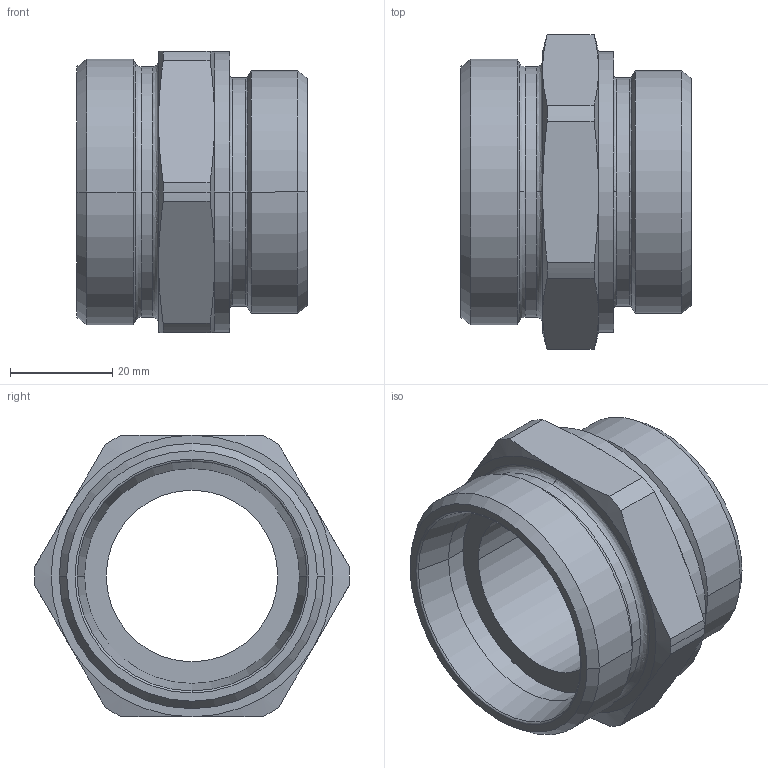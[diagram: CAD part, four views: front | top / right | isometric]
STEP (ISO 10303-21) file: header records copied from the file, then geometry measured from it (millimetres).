
FILE_DESCRIPTION((''),'2;1');
FILE_NAME('100913.stp','2007-10-30T15:28:54',(''),(''),'AutoCAD STEP 2000i','AutoCAD 2000i',', , ');
FILE_SCHEMA(('CONFIG_CONTROL_DESIGN'));
Length unit declared in the file: millimetre
Products named in the file (2): 100913.0; CHIAVE SMUSSATA#0
Assembly tree (1 placements, depth 2):
  100913.0
    CHIAVE SMUSSATA#0
Bounding box: 45 x 61.5 x 55 mm (x, y, z)
Volume: 47349.5 mm3; surface area: 15660.2 mm2
Topology: 1 solids, 1 shells, 68 faces, 165 edges, 103 vertices
Faces by surface type: cone 24, cylinder 22, plane 12, bspline 8, torus 2
Entity records: 2431 total; most frequent: CARTESIAN_POINT 738, DIRECTION 366, ORIENTED_EDGE 330, EDGE_CURVE 165, AXIS2_PLACEMENT_3D 163, VERTEX_POINT 103, CIRCLE 101, EDGE_LOOP 74
